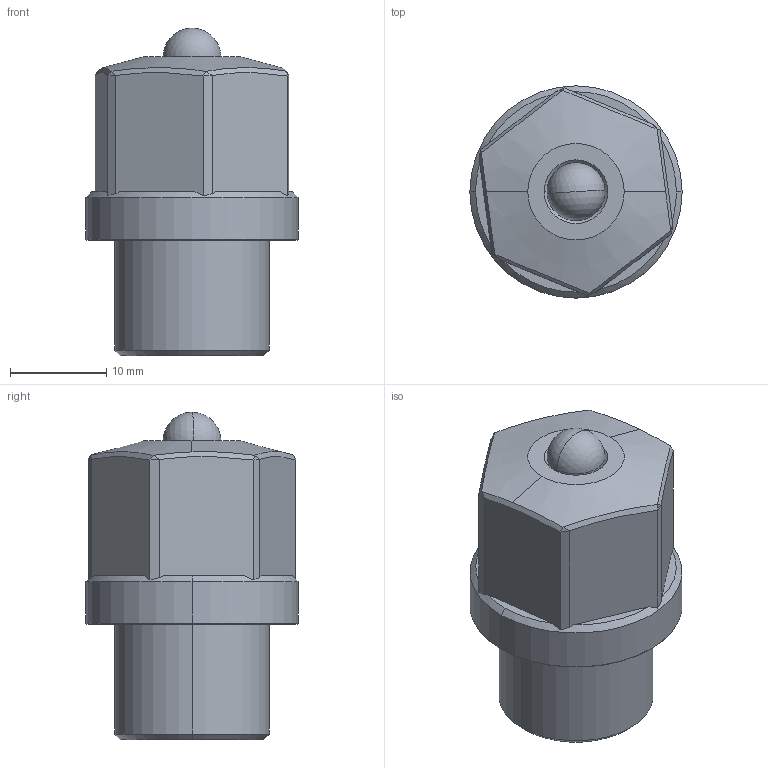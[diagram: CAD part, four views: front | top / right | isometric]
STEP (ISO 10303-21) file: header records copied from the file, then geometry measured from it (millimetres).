
FILE_DESCRIPTION (( 'STEP AP214' ), '1' );
FILE_NAME ('TO4C-M161.STEP', '2020-07-10T06:06:26', ( '' ), ( '' ), 'SwSTEP 2.0', 'SolidWorks 2019', '' );
FILE_SCHEMA (( 'AUTOMOTIVE_DESIGN' ));
Length unit declared in the file: millimetre
Products named in the file (3): TO4C-M161; TO4C-M161-BODY; TO4C-M161-PISTON
Assembly tree (2 placements, depth 2):
  TO4C-M161
    TO4C-M161-BODY
    TO4C-M161-PISTON
Bounding box: 22 x 22 x 33.97 mm (x, y, z)
Volume: 8132.2 mm3; surface area: 3343 mm2
Topology: 2 solids, 2 shells, 67 faces, 148 edges, 87 vertices
Faces by surface type: plane 31, cone 16, cylinder 12, bspline 6, sphere 2
Entity records: 2624 total; most frequent: CARTESIAN_POINT 1117, ORIENTED_EDGE 288, DIRECTION 280, EDGE_CURVE 144, AXIS2_PLACEMENT_3D 114, VERTEX_POINT 85, EDGE_LOOP 71, FACE_OUTER_BOUND 67
